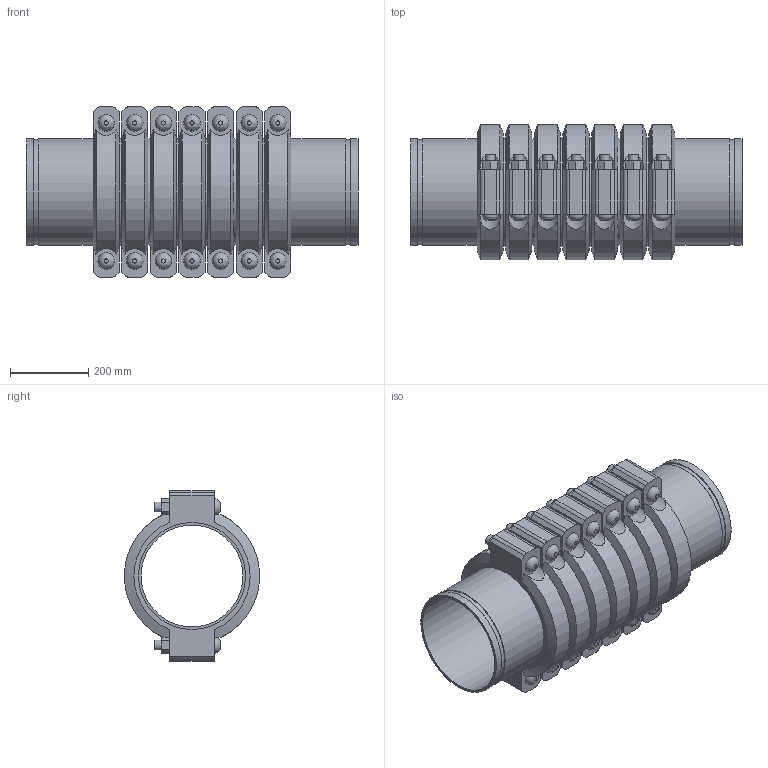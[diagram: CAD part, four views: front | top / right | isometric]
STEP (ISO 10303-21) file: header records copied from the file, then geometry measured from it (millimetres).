
FILE_DESCRIPTION(/* description */ ('VIC SS EXPANSION JOINT 7 COUPLINGS NEUTRAL STYLE 155P (OGS) (POTABLE WATER) ','CAx-IF Rec.Pracs.---Representation and Presentation of Product Manufacturing Information (PMI)---4.0---2014-10-13'),/* implementation_level */ '2;1');
FILE_NAME(/* name */ 'C:\Users\kkamble\AppData\Roaming\Autodesk\ApplicationPlugins\Victaulic.Temp\A807\Victaulic_SS_Expansion Joint_Neutral_7 Couplings_Style 155P (OGS)-Potable Water_7 Coup_Neut_10 (250).stp',/* time_stamp */ '2021-07-16T16:37:38+05:00',/* author */ ('kkamble'),/* organization */ ('Victaulic'),/* preprocessor_version */ 'ST-DEVELOPER v17.2',/* originating_system */ 'Autodesk Inventor 2019',/* authorisation */ '');
FILE_SCHEMA (('AP242_MANAGED_MODEL_BASED_3D_ENGINEERING_MIM_LF { 1 0 10303 442 1 1 4 }'));
Length unit declared in the file: inch
Products named in the file (4): 155P-10.0; Nipple-10.0; Nipple-10.0_1; 077-10.0
Assembly tree (15 placements, depth 2):
  155P-10.0
    Nipple-10.0  x2
    Nipple-10.0_1  x6
    077-10.0  x7
Bounding box: 847.85 x 344.9 x 435.1 mm (x, y, z)
Volume: 24519016.9 mm3; surface area: 3491788.5 mm2
Topology: 15 solids, 29 shells, 523 faces, 1255 edges, 878 vertices
Faces by surface type: plane 300, cylinder 181, cone 28, bspline 14
Full cylindrical faces by diameter (mm): 25.4 x28, 27.432 x14, 260.35 x8, 264.16 x7, 268.275 x16, 273.05 x38
Entity records: 3105 total; most frequent: CARTESIAN_POINT 679, DIRECTION 485, ORIENTED_EDGE 410, EDGE_CURVE 205, AXIS2_PLACEMENT_3D 198, VERTEX_POINT 146, EDGE_LOOP 111, CIRCLE 96
